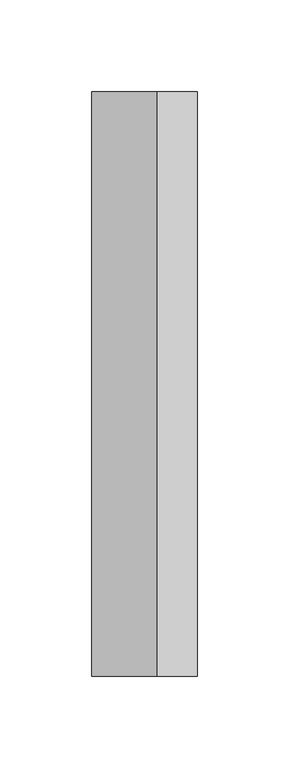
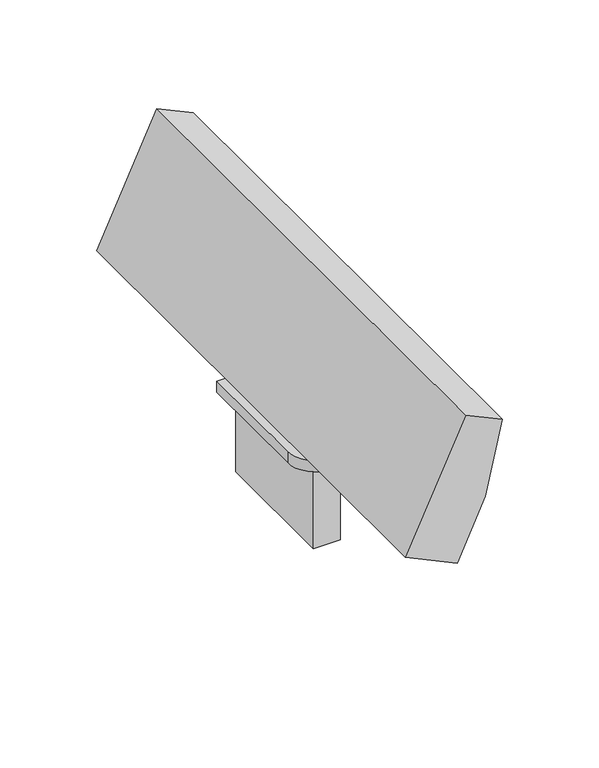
"""IFC4 building model written with IfcOpenShell, lengths in millimetres: light fixture geometry, Zumtobel SUP2 M WW : SUP2 M WW LED600-940 DIM 3CU WH."""

from ifc_helpers import new_model, si_unit, point, frame, frame_2d, origin, origin_with_axes, place, context, project, spatial, polyline, circle_curve, trimmed, segment, composite_curve, outline, extrude, source, transform, mapped, element, save
from ifc_brep_helpers import plane_surface, revolved_surface, advanced_brep


def light_fixture_64d5b7ca(model_context):
    return source(origin(), model_context, "Body", "SolidModel", [
        extrude(outline(polyline([(407.0000048, -40.0), (391.0000048, -40.0), (391.0000048, 40.0), (407.0000048, 40.0), (407.0000048, -40.0)])), frame((0.0, 0.0, -50.0), z_axis=(0.0, 0.0, 1.0), x_axis=(1.0, 0.0, 0.0)), (0.0, 0.0, 1.0), 50.0),
        extrude(outline(composite_curve([segment(trimmed(circle_curve(frame_2d((399.5000048, 0.0)), 6.0663113), [point((399.5000048, -6.0663113))], [point((399.5000048, 6.0663113))], False, "CARTESIAN"), True, "CONTINUOUS"), segment(trimmed(circle_curve(frame_2d((399.5000048, 0.0)), 6.0663113), [point((399.5000048, 6.0663113))], [point((399.5000048, -6.0663113))], False, "CARTESIAN"), True, "CONTINUOUS")], self_intersect=False)), frame((0.0, 0.0, 7.0), z_axis=(0.0, 0.0, 1.0), x_axis=(1.0, 0.0, 0.0)), (0.0, 0.0, 1.0), 26.0),
        extrude(outline(composite_curve([segment(trimmed(circle_curve(frame_2d((399.5000048, -28.0)), 17.0), [point((399.5000048, -45.0))], [point((382.5000048, -28.0))], False, "CARTESIAN"), True, "CONTINUOUS"), segment(polyline([(382.5000048, -28.0), (382.5000048, 45.0), (399.5000048, 45.0)]), True, "CONTINUOUS"), segment(trimmed(circle_curve(frame_2d((399.5000048, 28.0)), 17.0), [point((399.5000048, 45.0))], [point((416.5000048, 28.0))], False, "CARTESIAN"), True, "CONTINUOUS"), segment(polyline([(416.5000048, 28.0), (416.5000048, -45.0), (399.5000048, -45.0)]), True, "CONTINUOUS")], self_intersect=False)), origin_with_axes(), (0.0, 0.0, 1.0), 7.0),
        advanced_brep(
        [(412.8308142, -159.5, 98.81344), (434.5822004, -159.5, 88.6705992), (434.5822004, 159.4999997, 88.6705992), (412.8308142, 159.4999997, 98.81344), (434.0291596, -151.0, 86.1700444), (434.0291596, 151.0, 86.1700444), (424.6274572, 151.0, 43.6605687), (424.6274572, 159.4999997, 43.6605687), (424.6274572, -159.5, 43.6605687), (424.6274572, -151.0, 43.6605687), (432.2165436, -151.0, 87.0152811), (432.2165436, 151.0, 87.0152811), (394.7803715, -151.0, 55.3717375), (394.7803715, 151.0, 55.3717375), (408.3749883, -151.0, 49.0324635), (408.3749883, 151.0, 49.0324635), (409.2202248, -151.0, 50.8450791), (409.2202248, 151.0, 50.8450791), (407.7227267, -159.5, 7.4082572), (407.7227267, 159.4999997, 7.4082572), (376.908262, -159.5, 21.7772781), (376.908262, 159.4999997, 21.7772781)],
        [
            (0, 1),
            (1, 2),
            (2, 3),
            (3, 0),
            (4, 5),
            (5, 6),
            (6, 7),
            (7, 2),
            (1, 8),
            (8, 9),
            (9, 4),
            (4, 10),
            (10, 11),
            (11, 5),
            (10, 12, circle_curve(frame((452.3618215, -151.0, 25.2158655), z_axis=(0.0, -1.0, 0.0), x_axis=(0.42261826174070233, 0.0, 0.9063077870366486)), 65.0)),
            (12, 13),
            (13, 11, circle_curve(frame((452.3618215, 151.0, 25.2158655), z_axis=(0.0, 1.0, 0.0), x_axis=(0.42261826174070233, 0.0, 0.9063077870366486)), 65.0)),
            (12, 14),
            (14, 15),
            (15, 13),
            (14, 16),
            (16, 17),
            (17, 15),
            (16, 9),
            (9, 6),
            (6, 17),
            (8, 18),
            (18, 19),
            (19, 7),
            (18, 20),
            (20, 21),
            (21, 19),
            (20, 0),
            (3, 21),
        ],
        [
            plane_surface(frame((412.8308142, 151.0, 98.81344), z_axis=(0.4226183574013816, 0.0, 0.9063077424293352), x_axis=(0.0, -1.0, 0.0))),
            plane_surface(frame((434.5822004, 151.0, 88.6705992), z_axis=(0.9764047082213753, 0.0, -0.21594871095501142), x_axis=(0.0, -1.0, 0.0))),
            plane_surface(frame((434.0291596, 151.0, 86.1700444), z_axis=(-0.4226182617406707, 0.0, -0.9063077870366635), x_axis=(0.0, -1.0, 0.0))),
            revolved_surface(polyline([(479.8320085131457, -151.0, 84.12587165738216), (479.8320085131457, 151.0, 84.12587165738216)]), (452.3618215, -151.0, 25.2158655), (0.0, -1.0, 0.0)),
            plane_surface(frame((394.7803715, 151.0, 55.3717375), z_axis=(0.4226182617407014, 0.0, 0.9063077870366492), x_axis=(0.0, -1.0, 0.0))),
            plane_surface(frame((408.3749883, 151.0, 49.0324635), z_axis=(-0.9063077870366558, 0.0, 0.42261826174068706), x_axis=(0.0, -1.0, 0.0))),
            plane_surface(frame((409.2202248, 151.0, 50.8450791), z_axis=(0.4226182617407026, 0.0, 0.9063077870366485), x_axis=(0.0, -1.0, 0.0))),
            plane_surface(frame((424.6274572, 151.0, 43.6605687), z_axis=(0.9063077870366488, 0.0, -0.4226182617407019), x_axis=(0.0, -1.0, 0.0))),
            plane_surface(frame((407.7227267, 151.0, 7.4082572), z_axis=(-0.4226182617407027, 0.0, -0.9063077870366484), x_axis=(0.0, -1.0, 0.0))),
            plane_surface(frame((376.908262, 151.0, 21.7772781), z_axis=(-0.9063077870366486, 0.0, 0.42261826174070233), x_axis=(0.0, -1.0, 0.0))),
            plane_surface(frame((434.5822004, -151.0, 88.6705992), z_axis=(0.0, 1.0, 0.0), x_axis=(0.9063077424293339, 0.0, -0.4226183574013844))),
            plane_surface(frame((434.5822004, -159.5, 88.6705992), z_axis=(0.0, -1.0, 0.0), x_axis=(-0.9063077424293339, 0.0, 0.4226183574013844))),
            plane_surface(frame((434.5822004, 159.4999997, 88.6705992), z_axis=(0.0, 1.0, 0.0), x_axis=(0.9063077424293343, 0.0, -0.42261835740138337))),
            plane_surface(frame((434.5822004, 151.0, 88.6705992), z_axis=(0.0, -1.0, 0.0), x_axis=(-0.9063077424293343, 0.0, 0.42261835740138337))),
        ],
        [
            (0, [[1, 2, 3, 4]]),
            (1, [[5, 6, 7, 8, -2, 9, 10, 11]]),
            (2, [[-5, 12, 13, 14]]),
            (3, [[-13, 15, 16, 17]]),
            (4, [[-16, 18, 19, 20]]),
            (5, [[-19, 21, 22, 23]]),
            (6, [[-22, 24, 25, 26]]),
            (7, [[-25, -10, 27, 28, 29, -7]]),
            (8, [[-28, 30, 31, 32]]),
            (9, [[-31, 33, -4, 34]]),
            (10, [[-11, -24, -21, -18, -15, -12]]),
            (11, [[-33, -30, -27, -9, -1]]),
            (12, [[-3, -8, -29, -32, -34]]),
            (13, [[-6, -14, -17, -20, -23, -26]]),
        ],
    ),
    ])


if __name__ == "__main__":
    model = new_model("IFC4")
    model_context = context("Model", 3, world=origin())
    ifc_project = project(units=[si_unit("LENGTHUNIT", "METRE", prefix="MILLI")], contexts=[model_context])
    site = spatial("IfcSite", under=ifc_project)
    building = spatial("IfcBuilding", under=site)
    placement = place(None, origin())
    light_fixture_shape = light_fixture_64d5b7ca(model_context)
    element("IfcLightFixture", 1, ObjectType="Zumtobel SUP2 M WW : SUP2 M WW LED600-940 DIM 3CU WH", at=placement, inside=building, context=model_context, shape_type="MappedRepresentation", body=[
        mapped(light_fixture_shape, transform((0.0, 0.0, 0.0), x_axis=(1.0, 0.0, 0.0), y_axis=(0.0, 1.0, 0.0), z_axis=(0.0, 0.0, 1.0))),
    ])
    save(model, "model.ifc")
